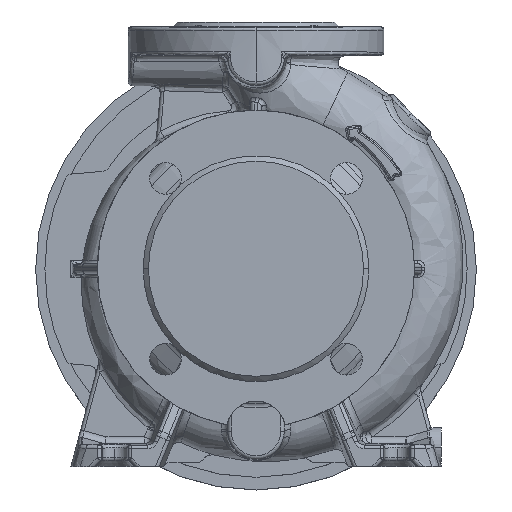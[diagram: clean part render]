
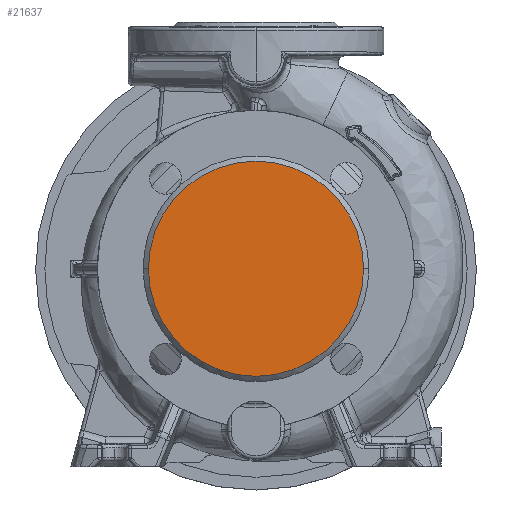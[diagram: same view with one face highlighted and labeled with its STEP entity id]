
A CAD part, top view. The second image highlights one B-rep face of the part: STEP entity #21637.
In plain terms, the highlighted planar face has unit normal (0, 0, 1).
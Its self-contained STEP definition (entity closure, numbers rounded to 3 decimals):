
#2161 = DIRECTION ( 'NONE',  ( 0., 0., 1. ) ) ;
#7080 = CIRCLE ( 'NONE', #30163, 61. ) ;
#7879 = DIRECTION ( 'NONE',  ( 1., 0., 0. ) ) ;
#7923 = VERTEX_POINT ( 'NONE', #65469 ) ;
#8402 = AXIS2_PLACEMENT_3D ( 'NONE', #62720, #73303, #51157 ) ;
#10330 = VERTEX_POINT ( 'NONE', #60204 ) ;
#12007 = DIRECTION ( 'NONE',  ( 0., 0., 1. ) ) ;
#17438 = DIRECTION ( 'NONE',  ( 1., 0., 0. ) ) ;
#21637 = ADVANCED_FACE ( 'NONE', ( #52272 ), #45093, .T. ) ;
#30163 = AXIS2_PLACEMENT_3D ( 'NONE', #35995, #2161, #7879 ) ;
#31830 = ORIENTED_EDGE ( 'NONE', *, *, #49131, .T. ) ;
#35995 = CARTESIAN_POINT ( 'NONE',  ( 0., 0., 80. ) ) ;
#39855 = EDGE_CURVE ( 'NONE', #10330, #7923, #7080, .T. ) ;
#45093 = PLANE ( 'NONE',  #62029 ) ;
#49131 = EDGE_CURVE ( 'NONE', #7923, #10330, #50471, .T. ) ;
#50385 = ORIENTED_EDGE ( 'NONE', *, *, #39855, .T. ) ;
#50471 = CIRCLE ( 'NONE', #8402, 61. ) ;
#51157 = DIRECTION ( 'NONE',  ( 1., 0., 0. ) ) ;
#52272 = FACE_OUTER_BOUND ( 'NONE', #63581, .T. ) ;
#56698 = CARTESIAN_POINT ( 'NONE',  ( 0., 0., 80. ) ) ;
#60204 = CARTESIAN_POINT ( 'NONE',  ( 61., 0., 80. ) ) ;
#62029 = AXIS2_PLACEMENT_3D ( 'NONE', #56698, #12007, #17438 ) ;
#62720 = CARTESIAN_POINT ( 'NONE',  ( 0., 0., 80. ) ) ;
#63581 = EDGE_LOOP ( 'NONE', ( #31830, #50385 ) ) ;
#65469 = CARTESIAN_POINT ( 'NONE',  ( -61., 0., 80. ) ) ;
#73303 = DIRECTION ( 'NONE',  ( 0., 0., 1. ) ) ;
